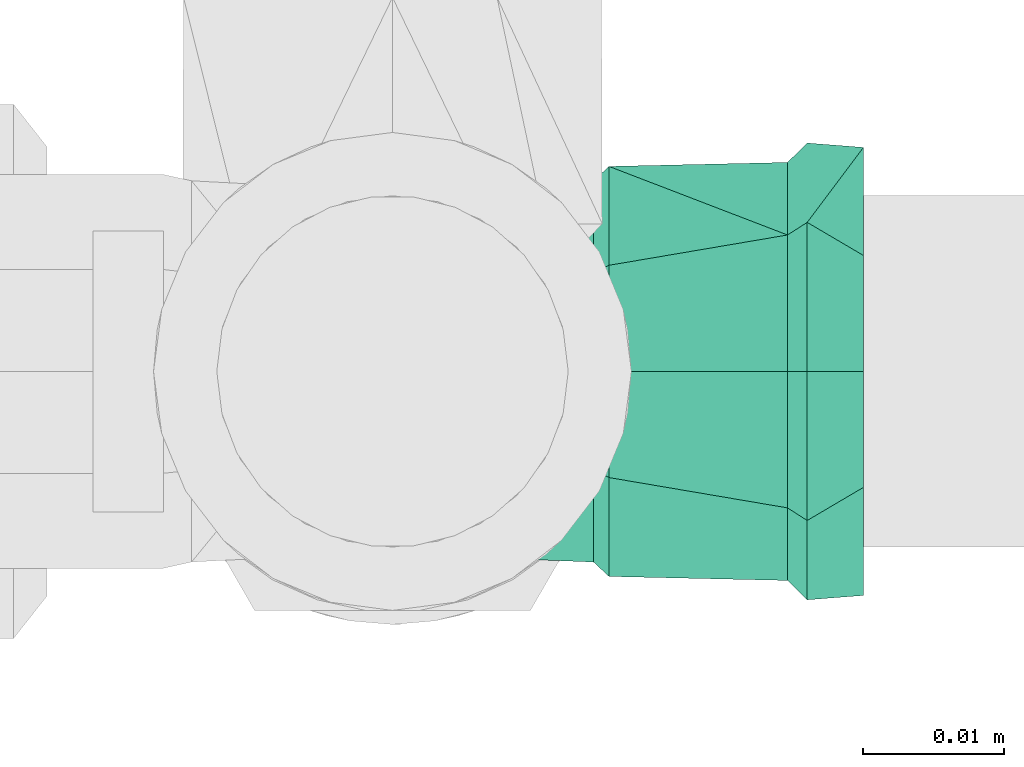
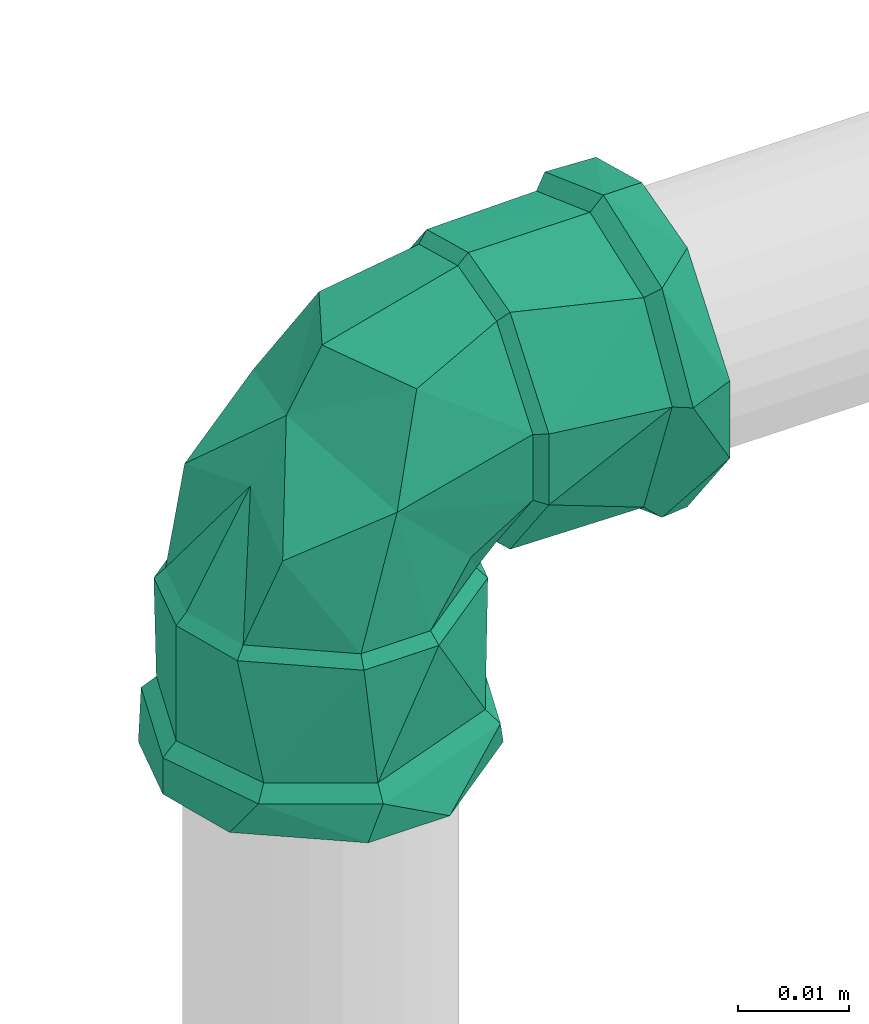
# One storey, part 398 of 589: 1 flow fitting.
"""IFC2X3 building model written with IfcOpenShell, lengths in millimetres."""

from ifc_helpers import new_model, entity, si_unit, converted_unit, derived_unit, direction, frame, origin, place, context, subcontext, project, spatial, faceted_brep, source, transform, mapped, material, type_object, type_shapes, element, save


model = new_model("IFC2X3")

# Units and contexts
model_context = context("Model", 3, precision=0.01, world=origin(), true_north=direction((6.123031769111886e-17, 1.0)))
body_context = subcontext(model_context, "Body", "Model", "MODEL_VIEW")
ifc_project = project(units=[si_unit("LENGTHUNIT", "METRE", prefix="MILLI"), si_unit("AREAUNIT", "SQUARE_METRE"), si_unit("VOLUMEUNIT", "CUBIC_METRE"), converted_unit("PLANEANGLEUNIT", "DEGREE", entity("IfcRatioMeasure", 0.017453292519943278), si_unit("PLANEANGLEUNIT", "RADIAN"), dimensions=[0, 0, 0, 0, 0, 0, 0]), si_unit("MASSUNIT", "GRAM", prefix="KILO"), derived_unit("MASSDENSITYUNIT", [(si_unit("MASSUNIT", "GRAM", prefix="KILO"), 1), (si_unit("LENGTHUNIT", "METRE"), -3)]), derived_unit("IONCONCENTRATIONUNIT", [(si_unit("MASSUNIT", "GRAM", prefix="KILO"), 1), (si_unit("LENGTHUNIT", "METRE"), -3)]), derived_unit("MOMENTOFINERTIAUNIT", [(si_unit("LENGTHUNIT", "METRE"), 4)]), si_unit("TIMEUNIT", "SECOND"), si_unit("FREQUENCYUNIT", "HERTZ"), si_unit("THERMODYNAMICTEMPERATUREUNIT", "DEGREE_CELSIUS"), derived_unit("THERMALTRANSMITTANCEUNIT", [(si_unit("MASSUNIT", "GRAM", prefix="KILO"), 1), (si_unit("THERMODYNAMICTEMPERATUREUNIT", "KELVIN"), -1), (si_unit("TIMEUNIT", "SECOND"), -3)]), derived_unit("THERMALCONDUCTANCEUNIT", [(si_unit("MASSUNIT", "GRAM", prefix="KILO"), 1), (si_unit("THERMODYNAMICTEMPERATUREUNIT", "KELVIN"), -1), (si_unit("TIMEUNIT", "SECOND"), -3), (si_unit("LENGTHUNIT", "METRE"), 1)]), derived_unit("VOLUMETRICFLOWRATEUNIT", [(si_unit("LENGTHUNIT", "METRE"), 3), (si_unit("TIMEUNIT", "SECOND"), -1)]), derived_unit("MASSFLOWRATEUNIT", [(si_unit("MASSUNIT", "GRAM", prefix="KILO"), 1), (si_unit("TIMEUNIT", "SECOND"), -1)]), derived_unit("ROTATIONALFREQUENCYUNIT", [(si_unit("TIMEUNIT", "SECOND"), -1)]), si_unit("ELECTRICCURRENTUNIT", "AMPERE"), si_unit("ELECTRICVOLTAGEUNIT", "VOLT"), si_unit("POWERUNIT", "WATT"), si_unit("FORCEUNIT", "NEWTON", prefix="KILO"), si_unit("ILLUMINANCEUNIT", "LUX"), si_unit("LUMINOUSFLUXUNIT", "LUMEN"), si_unit("LUMINOUSINTENSITYUNIT", "CANDELA"), derived_unit("USERDEFINED", [(si_unit("MASSUNIT", "GRAM", prefix="KILO"), -1), (si_unit("LENGTHUNIT", "METRE"), -2), (si_unit("TIMEUNIT", "SECOND"), 3), (si_unit("LUMINOUSFLUXUNIT", "LUMEN"), 1)]), derived_unit("USERDEFINED", [(si_unit("MASSUNIT", "GRAM", prefix="KILO"), 1), (si_unit("TIMEUNIT", "SECOND"), -3), (si_unit("LENGTHUNIT", "METRE"), 3), (si_unit("ELECTRICCURRENTUNIT", "AMPERE"), -2)]), derived_unit("SOUNDPOWERUNIT", [(si_unit("MASSUNIT", "GRAM", prefix="KILO"), 1), (si_unit("TIMEUNIT", "SECOND"), -3), (si_unit("LENGTHUNIT", "METRE"), 2)]), derived_unit("SOUNDPRESSUREUNIT", [(si_unit("MASSUNIT", "GRAM", prefix="KILO"), 1), (si_unit("LENGTHUNIT", "METRE"), -1), (si_unit("TIMEUNIT", "SECOND"), -2)]), derived_unit("LINEARVELOCITYUNIT", [(si_unit("LENGTHUNIT", "METRE"), 1), (si_unit("TIMEUNIT", "SECOND"), -1)]), si_unit("PRESSUREUNIT", "PASCAL"), derived_unit("USERDEFINED", [(si_unit("MASSUNIT", "GRAM", prefix="KILO"), 1), (si_unit("LENGTHUNIT", "METRE"), -2), (si_unit("TIMEUNIT", "SECOND"), -2)]), derived_unit("LINEARFORCEUNIT", [(si_unit("MASSUNIT", "GRAM", prefix="KILO"), 1), (si_unit("TIMEUNIT", "SECOND"), -2)]), derived_unit("PLANARFORCEUNIT", [(si_unit("MASSUNIT", "GRAM", prefix="KILO"), 1), (si_unit("LENGTHUNIT", "METRE"), -1), (si_unit("TIMEUNIT", "SECOND"), -2)]), derived_unit("SPECIFICHEATCAPACITYUNIT", [(si_unit("THERMODYNAMICTEMPERATUREUNIT", "KELVIN"), -1), (si_unit("LENGTHUNIT", "METRE"), 2), (si_unit("TIMEUNIT", "SECOND"), -2)]), derived_unit("HEATINGVALUEUNIT", [(si_unit("LENGTHUNIT", "METRE"), 2), (si_unit("TIMEUNIT", "SECOND"), -2)]), derived_unit("VAPORPERMEABILITYUNIT", [(si_unit("LENGTHUNIT", "METRE"), -1), (si_unit("TIMEUNIT", "SECOND"), 1)]), derived_unit("DYNAMICVISCOSITYUNIT", [(si_unit("MASSUNIT", "GRAM", prefix="KILO"), 1), (si_unit("TIMEUNIT", "SECOND"), -1), (si_unit("LENGTHUNIT", "METRE"), -1)]), derived_unit("THERMALEXPANSIONCOEFFICIENTUNIT", [(si_unit("THERMODYNAMICTEMPERATUREUNIT", "KELVIN"), -1)]), derived_unit("MODULUSOFELASTICITYUNIT", [(si_unit("MASSUNIT", "GRAM", prefix="KILO"), 1), (si_unit("LENGTHUNIT", "METRE"), -1), (si_unit("TIMEUNIT", "SECOND"), -2)]), derived_unit("ISOTHERMALMOISTURECAPACITYUNIT", [(si_unit("LENGTHUNIT", "METRE"), 3), (si_unit("MASSUNIT", "GRAM", prefix="KILO"), -1)]), derived_unit("MOISTUREDIFFUSIVITYUNIT", [(si_unit("TIMEUNIT", "SECOND"), -1), (si_unit("LENGTHUNIT", "METRE"), 2)])], contexts=[model_context])

# Site, building, storey
site_placement = place(None, origin())
site = spatial("IfcSite", under=ifc_project, at=site_placement, Name="Default", CompositionType="ELEMENT")
building_placement = place(site_placement, origin())
building = spatial("IfcBuilding", under=site, at=building_placement, CompositionType="ELEMENT")
storey_placement = place(building_placement, frame((0.0, 0.0, 100.0)))
storey = spatial("IfcBuildingStorey", under=building, at=storey_placement, Name="TÉRREO", CompositionType="ELEMENT", Elevation=100.0)

# Flow fitting
ifc_material = material(Name="PVC Marrom")
pipe_fitting_type = type_object("IfcPipeFittingType", Name="PVC Marrom Soldável_Joelho 45°_90°_Rodrigo MEP:Joelho", PredefinedType="NOTDEFINED", material=ifc_material)
shared_shape = source(origin(), body_context, "Body", "Brep", [
    faceted_brep([(3.908167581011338, 15.40000000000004, 14.585479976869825), (13.076983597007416, 15.40000000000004, 7.549999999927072), (15.099999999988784, 15.40000000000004, 0.0), (13.076983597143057, 15.40000000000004, -7.55000000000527), (3.9081675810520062, 15.40000000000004, -14.585479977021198), (-3.9081675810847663, 15.40000000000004, -14.585479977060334), (-13.076983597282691, 15.40000000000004, -7.550000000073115), (-15.100000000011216, 15.40000000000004, 0.0), (-13.076983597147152, 15.40000000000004, 7.549999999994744), (-3.908167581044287, 15.40000000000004, 14.585479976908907), (-3.633819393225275, 14.30000000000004, 13.561598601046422), (-12.158996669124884, 14.30000000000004, 7.0199999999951), (-14.040000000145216, 14.30000000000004, 0.0), (-12.158996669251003, 14.30000000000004, -7.020000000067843), (-3.6338193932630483, 14.30000000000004, -13.561598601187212), (3.6338193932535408, 14.30000000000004, -13.561598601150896), (12.158996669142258, 14.30000000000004, -7.020000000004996), (14.039999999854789, 14.30000000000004, 0.0), (12.158996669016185, 14.30000000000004, 7.0199999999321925), (3.6338193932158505, 14.30000000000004, 13.561598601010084)], [[[0, 1, 2, 3, 4, 5, 6, 7, 8, 9]], [[10, 11, 12, 13, 14, 15, 16, 17, 18, 19]], [[3, 17, 16]], [[4, 3, 16, 15]], [[3, 2, 17]], [[15, 14, 5, 4]], [[6, 5, 14, 13]], [[7, 13, 12]], [[7, 6, 13]], [[8, 12, 11]], [[9, 8, 11, 10]], [[8, 7, 12]], [[10, 19, 0, 9]], [[1, 0, 19, 18]], [[2, 18, 17]], [[2, 1, 18]]]),
    faceted_brep([(-15.399999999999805, 3.908167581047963, 14.585479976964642), (-15.399999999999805, 13.076983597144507, 7.549999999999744), (-15.399999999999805, 15.100000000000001, 0.0), (-15.399999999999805, 13.076983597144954, -7.54999999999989), (-15.399999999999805, 3.9081675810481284, -14.58547997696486), (-15.399999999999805, -3.9081675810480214, -14.585479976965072), (-15.399999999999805, -13.0769835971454, -7.550000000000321), (-15.399999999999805, -15.099999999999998, 0.0), (-15.399999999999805, -13.076983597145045, 7.550000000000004), (-15.399999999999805, -3.908167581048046, 14.585479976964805), (-14.299999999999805, 12.158996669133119, 7.019999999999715), (-14.299999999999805, 3.6338193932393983, 13.561598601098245), (-14.299999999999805, -3.633819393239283, 13.56159860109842), (-14.299999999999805, -12.15899666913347, 7.020000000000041), (-14.299999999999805, -14.040000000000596, 0.0), (-14.299999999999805, -12.158996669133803, -7.020000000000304), (-14.299999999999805, -3.63381939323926, -13.561598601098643), (-14.299999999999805, 3.6338193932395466, -13.56159860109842), (-14.299999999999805, 12.158996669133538, -7.019999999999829), (-14.299999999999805, 14.03999999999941, 0.0)], [[[0, 1, 2, 3, 4, 5, 6, 7, 8, 9]], [[10, 11, 12, 13, 14, 15, 16, 17, 18, 19]], [[3, 2, 19, 18]], [[4, 3, 18, 17]], [[17, 16, 5, 4]], [[6, 5, 16, 15]], [[7, 6, 15, 14]], [[8, 7, 14, 13]], [[9, 8, 13, 12]], [[12, 11, 0, 9]], [[1, 0, 11, 10]], [[2, 1, 10, 19]]]),
    faceted_brep([(-33.4999999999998, -4.2705142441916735, -15.937776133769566), (-33.4999999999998, -6.250000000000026, -10.825317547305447), (-33.4999999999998, 0.0, -12.5), (-33.4999999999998, -14.289419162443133, -8.25000000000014), (-33.4999999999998, 4.270514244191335, -15.937776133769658), (-33.4999999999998, -12.074072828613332, -3.23523806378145), (-33.4999999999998, -16.499999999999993, 0.0), (-33.4999999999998, -12.074072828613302, 3.2352380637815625), (-33.4999999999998, -14.289419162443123, 8.249999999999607), (-33.4999999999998, -6.249999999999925, 10.825317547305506), (-33.4999999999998, -4.27051424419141, 15.937776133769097), (-33.4999999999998, 0.0, 12.5), (-33.4999999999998, 4.270514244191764, 15.937776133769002), (-33.4999999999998, 6.249999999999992, 10.825317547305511), (-33.4999999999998, 14.28941916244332, 8.249999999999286), (-33.4999999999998, 12.074072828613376, 3.2352380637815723), (-33.4999999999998, 16.500000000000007, 0.0), (-33.4999999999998, 12.074072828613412, -3.235238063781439), (-33.4999999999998, 14.289419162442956, -8.250000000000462), (-33.4999999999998, 6.250000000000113, -10.82531754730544), (-29.499999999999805, 16.5, 0.0), (-29.500000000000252, 12.639142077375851, 10.606700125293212), (-29.50000000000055, 2.8633833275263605, 16.249647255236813), (-29.50000000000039, -12.64180232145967, 10.603529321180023), (-29.499999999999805, -16.499999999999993, 0.0), (-29.500000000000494, -4.889209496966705, 13.426588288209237), (-29.49999999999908, -12.641802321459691, -10.603529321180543), (-29.49999999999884, -2.8674593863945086, -16.24892847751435), (-29.499999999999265, 12.639142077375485, -10.606700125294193), (-29.499999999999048, 4.885841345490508, -13.427814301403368), (-28.099999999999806, -15.099999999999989, 0.0), (-28.10000000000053, -11.56916454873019, 9.703835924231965), (-28.100000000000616, -4.474367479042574, 12.287362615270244), (-28.1000000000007, 2.6204295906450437, 14.870889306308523), (-28.100000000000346, 11.566730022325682, 9.706737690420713), (-28.09999999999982, 15.099999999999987, 0.0), (-28.099999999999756, 11.566730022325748, -9.706737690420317), (-28.09999999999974, 4.4712851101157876, -12.28848460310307), (-28.09999999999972, -2.6241598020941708, -14.870231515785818), (-28.09999999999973, -11.569164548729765, -9.703835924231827), (-15.399999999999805, 0.0, -12.5), (-15.399999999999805, -6.250000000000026, -10.825317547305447), (-15.399999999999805, -3.908167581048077, -14.585479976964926), (-15.399999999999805, 3.9081675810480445, -14.585479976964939), (-15.399999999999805, 6.250000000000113, -10.82531754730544), (-15.399999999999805, -13.076983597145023, -7.549999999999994), (-15.399999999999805, -12.074072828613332, -3.23523806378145), (-15.399999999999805, -15.099999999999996, 0.0), (-15.399999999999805, -12.074072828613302, 3.2352380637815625), (-15.399999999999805, -13.076983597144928, 7.550000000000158), (-15.399999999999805, -6.249999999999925, 10.825317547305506), (-15.399999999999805, -3.9081675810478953, 14.585479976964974), (-15.399999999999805, 0.0, 12.5), (-15.399999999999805, 3.9081675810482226, 14.58547997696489), (-15.399999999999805, 6.249999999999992, 10.825317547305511), (-15.399999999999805, 13.076983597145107, 7.549999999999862), (-15.399999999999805, 12.074072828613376, 3.2352380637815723), (-15.399999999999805, 15.100000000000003, 0.0), (-15.399999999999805, 12.074072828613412, -3.235238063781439), (-15.399999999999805, 13.076983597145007, -7.550000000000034)], [[[0, 1, 2]], [[1, 0, 3]], [[2, 4, 0]], [[3, 5, 1]], [[3, 6, 5]], [[5, 6, 7]], [[8, 7, 6]], [[7, 8, 9]], [[10, 9, 8]], [[9, 10, 11]], [[11, 10, 12]], [[12, 13, 11]], [[14, 13, 12]], [[13, 14, 15]], [[16, 15, 14]], [[16, 17, 15]], [[18, 17, 16]], [[19, 17, 18]], [[19, 18, 4]], [[4, 2, 19]], [[16, 14, 20]], [[14, 21, 20]], [[21, 14, 12]], [[21, 12, 22]], [[23, 10, 8]], [[24, 8, 6]], [[10, 23, 25, 22]], [[23, 8, 24]], [[10, 22, 12]], [[6, 3, 24]], [[3, 26, 24]], [[26, 3, 0]], [[26, 0, 27]], [[28, 4, 18]], [[20, 18, 16]], [[4, 28, 29, 27]], [[28, 18, 20]], [[4, 27, 0]], [[30, 31, 23, 24]], [[31, 32, 33, 22, 25, 23]], [[34, 35, 20, 21]], [[34, 21, 22, 33]], [[35, 36, 28, 20]], [[36, 37, 38, 27, 29, 28]], [[39, 30, 24, 26]], [[39, 26, 27, 38]], [[40, 41, 42]], [[42, 43, 40]], [[44, 40, 43]], [[45, 42, 41]], [[41, 46, 45]], [[46, 47, 45]], [[48, 47, 46]], [[47, 48, 49]], [[50, 49, 48]], [[49, 50, 51]], [[52, 51, 50]], [[53, 51, 52]], [[52, 54, 53]], [[53, 54, 55]], [[56, 55, 54]], [[55, 56, 57]], [[56, 58, 57]], [[59, 58, 44]], [[57, 58, 59]], [[43, 59, 44]], [[35, 34, 55]], [[35, 55, 57]], [[55, 34, 53]], [[34, 33, 53]], [[51, 33, 32, 31]], [[49, 31, 30]], [[31, 49, 51]], [[49, 30, 47]], [[33, 51, 53]], [[30, 39, 45]], [[30, 45, 47]], [[45, 39, 42]], [[39, 38, 42]], [[43, 38, 37, 36]], [[59, 36, 35]], [[36, 59, 43]], [[59, 35, 57]], [[38, 43, 42]], [[9, 11, 52, 50]], [[7, 9, 50, 48]], [[48, 46, 5, 7]], [[1, 5, 46, 41]], [[2, 1, 41, 40]], [[19, 2, 40, 44]], [[17, 19, 44, 58]], [[58, 56, 15, 17]], [[13, 15, 56, 54]], [[11, 13, 54, 52]]]),
    faceted_brep([(-14.299999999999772, -3.6338193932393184, -13.561598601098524), (-14.299999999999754, -12.158996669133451, -7.020000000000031), (-14.29999999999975, -14.039999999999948, 0.0), (-14.299999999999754, -12.158996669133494, 7.019999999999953), (-14.299999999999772, -3.6338193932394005, 13.561598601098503), (-14.299999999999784, 3.633819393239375, 13.561598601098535), (-14.299999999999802, 12.158996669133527, 7.0200000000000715), (-14.299999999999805, 14.04000000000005, 0.0), (-14.299999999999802, 12.158996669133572, -7.019999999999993), (-14.299999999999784, 3.63381939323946, -13.561598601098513), (3.633819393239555, 14.29999999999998, -13.561598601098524), (-3.633819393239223, 14.300000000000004, -13.561598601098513), (-12.158996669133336, 14.300000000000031, -7.019999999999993), (-14.039999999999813, 14.300000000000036, 0.0), (-12.158996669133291, 14.300000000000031, 7.0200000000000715), (-3.6338193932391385, 14.300000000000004, 13.561598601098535), (3.6338193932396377, 14.29999999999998, 13.561598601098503), (12.158996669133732, 14.299999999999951, 7.019999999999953), (14.040000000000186, 14.299999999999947, 0.0), (12.158996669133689, 14.299999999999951, -7.020000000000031), (-0.45476175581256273, 0.4547603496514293, 13.009299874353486), (-4.991226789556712, -9.102895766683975, 8.866254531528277), (-2.689013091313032, -7.336393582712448, 0.0), (3.7770734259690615, -3.6031967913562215, 0.0), (9.09033094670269, 4.905775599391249, 8.841582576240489), (10.243159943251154, 0.13000000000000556, 0.0), (-14.116152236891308, 14.116152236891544, 0.0), (-8.296884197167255, 8.29688403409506, 12.78130953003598), (-0.454761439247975, 0.45476027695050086, -13.009299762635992), (-8.296884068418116, 8.296883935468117, -12.78130960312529), (9.090330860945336, 4.90577564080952, -8.84158269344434), (-4.991226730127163, -9.10289574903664, -8.866254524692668)], [[[0, 1, 2, 3, 4, 5, 6, 7, 8, 9]], [[10, 11, 12, 13, 14, 15, 16, 17, 18, 19]], [[4, 20, 5]], [[21, 3, 22]], [[20, 4, 21]], [[21, 22, 23]], [[17, 24, 25]], [[26, 6, 14]], [[23, 20, 21]], [[26, 7, 6]], [[6, 5, 27]], [[3, 2, 22]], [[20, 23, 24]], [[25, 18, 17]], [[20, 27, 5]], [[16, 20, 24]], [[17, 16, 24]], [[6, 27, 14]], [[26, 14, 13]], [[21, 4, 3]], [[27, 15, 14]], [[27, 20, 15]], [[23, 25, 24]], [[15, 20, 16]], [[8, 7, 26]], [[28, 29, 11]], [[28, 10, 30]], [[8, 12, 29]], [[31, 22, 1]], [[31, 23, 22]], [[28, 9, 29]], [[19, 30, 10]], [[0, 28, 31]], [[1, 22, 2]], [[8, 26, 12]], [[12, 11, 29]], [[8, 29, 9]], [[31, 1, 0]], [[10, 28, 11]], [[30, 19, 25]], [[0, 9, 28]], [[19, 18, 25]], [[25, 23, 30]], [[23, 31, 28]], [[30, 23, 28]], [[12, 26, 13]]]),
    faceted_brep([(0.0, 15.40000000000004, -12.5), (-6.249999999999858, 15.40000000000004, -10.825317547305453), (-3.908167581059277, 15.40000000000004, -14.585479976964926), (3.9081675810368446, 15.40000000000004, -14.585479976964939), (6.250000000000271, 15.40000000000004, -10.82531754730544), (-13.076983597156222, 15.40000000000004, -7.549999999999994), (-12.07407282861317, 15.40000000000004, -3.235238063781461), (-15.100000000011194, 15.40000000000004, 0.0), (-12.074072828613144, 15.40000000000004, 3.2352380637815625), (-13.076983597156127, 15.40000000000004, 7.550000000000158), (-6.249999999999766, 15.40000000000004, 10.825317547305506), (-3.9081675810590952, 15.40000000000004, 14.585479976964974), (0.0, 15.40000000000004, 12.5), (3.9081675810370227, 15.40000000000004, 14.58547997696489), (6.250000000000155, 15.40000000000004, 10.825317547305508), (13.076983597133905, 15.40000000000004, 7.549999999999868), (12.074072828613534, 15.40000000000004, 3.2352380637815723), (15.099999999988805, 15.40000000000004, 0.0), (12.07407282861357, 15.40000000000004, -3.235238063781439), (13.07698359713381, 15.40000000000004, -7.550000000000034), (15.099999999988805, 28.10000000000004, 0.0), (11.56673002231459, 28.100000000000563, 9.706737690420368), (4.471285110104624, 28.10000000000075, 12.288484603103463), (-2.624159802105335, 28.100000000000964, 14.870231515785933), (-11.569164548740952, 28.10000000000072, 9.703835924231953), (-15.100000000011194, 28.10000000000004, 0.0), (-11.569164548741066, 28.10000000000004, -9.703835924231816), (-4.474367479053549, 28.10000000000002, -12.287362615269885), (2.6204295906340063, 28.099999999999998, -14.870889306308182), (11.566730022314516, 28.10000000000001, -9.706737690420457), (-12.639142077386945, 29.50000000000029, 10.606700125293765), (-16.50000000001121, 29.500000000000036, 0.0), (-2.8633833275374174, 29.50000000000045, 16.249647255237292), (12.641802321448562, 29.500000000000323, 10.603529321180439), (4.889209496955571, 29.500000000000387, 13.426588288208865), (16.499999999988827, 29.50000000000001, 0.0), (12.64180232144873, 29.500000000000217, -10.603529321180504), (2.867459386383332, 29.500000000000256, -16.24892847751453), (-12.639142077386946, 29.500000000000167, -10.606700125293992), (-4.885841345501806, 29.500000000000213, -13.427814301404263), (-4.270514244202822, 33.50000000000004, -15.937776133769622), (-6.249999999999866, 33.50000000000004, -10.825317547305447), (0.0, 33.50000000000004, -12.5), (-14.289419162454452, 33.50000000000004, -8.249999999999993), (4.270514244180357, 33.50000000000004, -15.937776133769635), (-12.074072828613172, 33.50000000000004, -3.23523806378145), (-16.50000000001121, 33.50000000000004, 0.0), (-12.074072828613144, 33.50000000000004, 3.2352380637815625), (-14.28941916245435, 33.50000000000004, 8.250000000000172), (-6.2499999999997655, 33.50000000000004, 10.825317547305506), (-4.270514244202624, 33.50000000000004, 15.937776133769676), (0.0, 33.50000000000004, 12.5), (4.270514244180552, 33.50000000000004, 15.937776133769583), (6.250000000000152, 33.50000000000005, 10.825317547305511), (14.289419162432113, 33.50000000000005, 8.249999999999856), (12.074072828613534, 33.50000000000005, 3.2352380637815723), (16.49999999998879, 33.50000000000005, 0.0), (12.07407282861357, 33.50000000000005, -3.235238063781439), (14.289419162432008, 33.50000000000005, -8.250000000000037), (6.250000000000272, 33.50000000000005, -10.82531754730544)], [[[0, 1, 2]], [[2, 3, 0]], [[4, 0, 3]], [[5, 2, 1]], [[1, 6, 5]], [[6, 7, 5]], [[8, 7, 6]], [[7, 8, 9]], [[10, 9, 8]], [[9, 10, 11]], [[12, 11, 10]], [[13, 11, 12]], [[12, 14, 13]], [[13, 14, 15]], [[16, 15, 14]], [[15, 16, 17]], [[16, 18, 17]], [[19, 18, 4]], [[17, 18, 19]], [[3, 19, 4]], [[20, 21, 15]], [[20, 15, 17]], [[15, 21, 13]], [[13, 21, 22, 23]], [[11, 23, 24]], [[9, 24, 25]], [[24, 9, 11]], [[9, 25, 7]], [[23, 11, 13]], [[25, 26, 5]], [[25, 5, 7]], [[5, 26, 2]], [[2, 26, 27, 28]], [[3, 28, 29]], [[19, 29, 20]], [[29, 19, 3]], [[19, 20, 17]], [[28, 3, 2]], [[24, 23, 30]], [[25, 24, 31]], [[31, 24, 30]], [[23, 32, 30]], [[21, 20, 33]], [[21, 33, 34]], [[22, 32, 23]], [[35, 33, 20]], [[32, 22, 34]], [[22, 21, 34]], [[20, 29, 36]], [[36, 35, 20]], [[37, 36, 29]], [[38, 39, 27]], [[29, 28, 37]], [[26, 25, 31]], [[38, 27, 26]], [[38, 26, 31]], [[28, 39, 37]], [[39, 28, 27]], [[40, 41, 42]], [[41, 40, 43]], [[42, 44, 40]], [[43, 45, 41]], [[43, 46, 45]], [[45, 46, 47]], [[48, 47, 46]], [[47, 48, 49]], [[50, 49, 48]], [[49, 50, 51]], [[51, 50, 52]], [[52, 53, 51]], [[54, 53, 52]], [[53, 54, 55]], [[56, 55, 54]], [[56, 57, 55]], [[58, 57, 56]], [[59, 57, 58]], [[59, 58, 44]], [[44, 42, 59]], [[56, 54, 35]], [[54, 33, 35]], [[33, 54, 52]], [[52, 32, 34, 33]], [[30, 50, 48]], [[31, 48, 46]], [[50, 30, 32]], [[30, 48, 31]], [[50, 32, 52]], [[46, 43, 31]], [[43, 38, 31]], [[38, 43, 40]], [[40, 37, 39, 38]], [[36, 44, 58]], [[35, 58, 56]], [[44, 36, 37]], [[36, 58, 35]], [[44, 37, 40]], [[49, 51, 12, 10]], [[47, 49, 10, 8]], [[8, 6, 45, 47]], [[41, 45, 6, 1]], [[42, 41, 1, 0]], [[59, 42, 0, 4]], [[57, 59, 4, 18]], [[18, 16, 55, 57]], [[53, 55, 16, 14]], [[51, 53, 14, 12]]]),
])
type_shapes(pipe_fitting_type, [shared_shape])
flow_fitting_placement = place(storey_placement, frame((3191.179797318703, 277.3181290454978, 2970.0), z_axis=(0.0, 1.0, 0.0), x_axis=(0.0, 0.0, 1.0)))
element("IfcFlowFitting", 1, at=flow_fitting_placement, inside=storey, type_object=pipe_fitting_type, material=ifc_material, Name="PVC Marrom Soldável_Joelho 45°_90°_Rodrigo MEP:Joelho", ObjectType="PVC Marrom Soldável_Joelho 45°_90°_Rodrigo MEP:Joelho", context=body_context, shape_type="MappedRepresentation", body=[
    mapped(shared_shape, transform((0.0, 0.0, 0.0), scale=1.0)),
])

save(model, "model.ifc")
